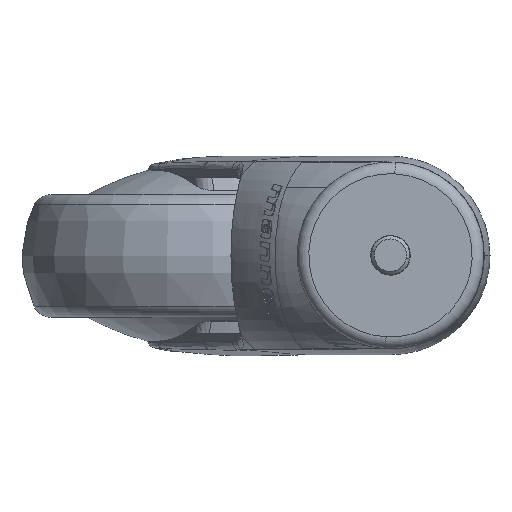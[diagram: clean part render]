
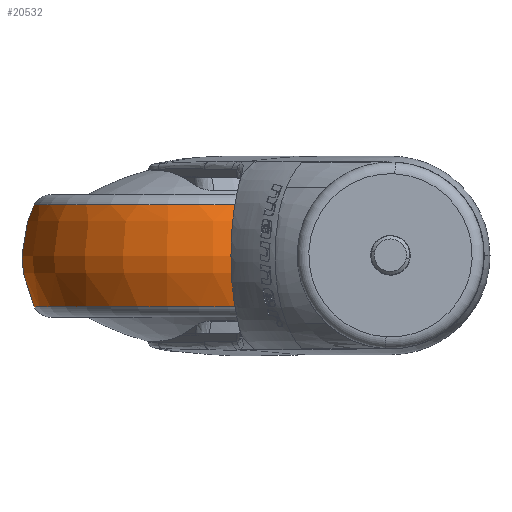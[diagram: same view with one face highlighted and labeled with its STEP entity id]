
A CAD part, top view. The second image highlights one B-rep face of the part: STEP entity #20532.
In plain terms, the highlighted toroidal (fillet/blend) face has major radius 22 mm and minor radius 28 mm.
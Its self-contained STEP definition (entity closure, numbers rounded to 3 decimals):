
#20454 = EDGE_CURVE ( 'NONE', #20457, #20459, #52026, .T. ) ;
#20457 = VERTEX_POINT ( 'NONE', #52021 ) ;
#20459 = VERTEX_POINT ( 'NONE', #52020 ) ;
#20528 = EDGE_CURVE ( 'NONE', #20457, #20544, #52145, .T. ) ;
#20531 = EDGE_CURVE ( 'NONE', #20459, #20543, #52140, .T. ) ;
#20532 = ADVANCED_FACE ( 'NONE', ( #52135 ), #52134, .T. ) ;
#20533 = EDGE_LOOP ( 'NONE', ( #20609, #20610, #20611, #20612 ) ) ;
#20543 = VERTEX_POINT ( 'NONE', #52170 ) ;
#20544 = VERTEX_POINT ( 'NONE', #52169 ) ;
#20609 = ORIENTED_EDGE ( 'NONE', *, *, #20528, .F. ) ;
#20610 = ORIENTED_EDGE ( 'NONE', *, *, #20454, .T. ) ;
#20611 = ORIENTED_EDGE ( 'NONE', *, *, #20531, .T. ) ;
#20612 = ORIENTED_EDGE ( 'NONE', *, *, #20613, .F. ) ;
#20613 = EDGE_CURVE ( 'NONE', #20544, #20543, #52251, .T. ) ;
#52020 = CARTESIAN_POINT ( 'NONE',  ( -6.913, -13.088, 46.005 ) ) ;
#52021 = CARTESIAN_POINT ( 'NONE',  ( -83.243, -13.088, -8.005 ) ) ;
#52022 = DIRECTION ( 'NONE',  ( 0.816, 0., 0.578 ) ) ;
#52023 = DIRECTION ( 'NONE',  ( 0., 1., 0. ) ) ;
#52024 = CARTESIAN_POINT ( 'NONE',  ( -45.078, -13.088, 19. ) ) ;
#52025 = AXIS2_PLACEMENT_3D ( 'NONE', #52024, #52023, #52022 ) ;
#52026 = CIRCLE ( 'NONE', #52025, 46.753 ) ;
#52128 = DIRECTION ( 'NONE',  ( 0.816, 0., 0.578 ) ) ;
#52129 = DIRECTION ( 'NONE',  ( 0., 1., 0. ) ) ;
#52130 = CARTESIAN_POINT ( 'NONE',  ( -45.078, 0., 19. ) ) ;
#52131 = AXIS2_PLACEMENT_3D ( 'NONE', #52130, #52129, #52128 ) ;
#52134 = TOROIDAL_SURFACE ( 'NONE', #52131, 22., 28. ) ;
#52135 = FACE_OUTER_BOUND ( 'NONE', #20533, .T. ) ;
#52136 = DIRECTION ( 'NONE',  ( 0.816, 0., 0.578 ) ) ;
#52137 = DIRECTION ( 'NONE',  ( -0.578, 0., 0.816 ) ) ;
#52138 = CARTESIAN_POINT ( 'NONE',  ( -27.119, 0., 31.707 ) ) ;
#52139 = AXIS2_PLACEMENT_3D ( 'NONE', #52138, #52137, #52136 ) ;
#52140 = CIRCLE ( 'NONE', #52139, 28. ) ;
#52141 = DIRECTION ( 'NONE',  ( -0.816, 0., -0.578 ) ) ;
#52142 = DIRECTION ( 'NONE',  ( 0.578, 0., -0.816 ) ) ;
#52143 = CARTESIAN_POINT ( 'NONE',  ( -63.037, 0., 6.293 ) ) ;
#52144 = AXIS2_PLACEMENT_3D ( 'NONE', #52143, #52142, #52141 ) ;
#52145 = CIRCLE ( 'NONE', #52144, 28. ) ;
#52169 = CARTESIAN_POINT ( 'NONE',  ( -83.243, 13.088, -8.005 ) ) ;
#52170 = CARTESIAN_POINT ( 'NONE',  ( -6.913, 13.088, 46.005 ) ) ;
#52243 = DIRECTION ( 'NONE',  ( 0.816, 0., 0.578 ) ) ;
#52244 = DIRECTION ( 'NONE',  ( 0., 1., 0. ) ) ;
#52245 = CARTESIAN_POINT ( 'NONE',  ( -45.078, 13.088, 19. ) ) ;
#52246 = AXIS2_PLACEMENT_3D ( 'NONE', #52245, #52244, #52243 ) ;
#52251 = CIRCLE ( 'NONE', #52246, 46.753 ) ;
